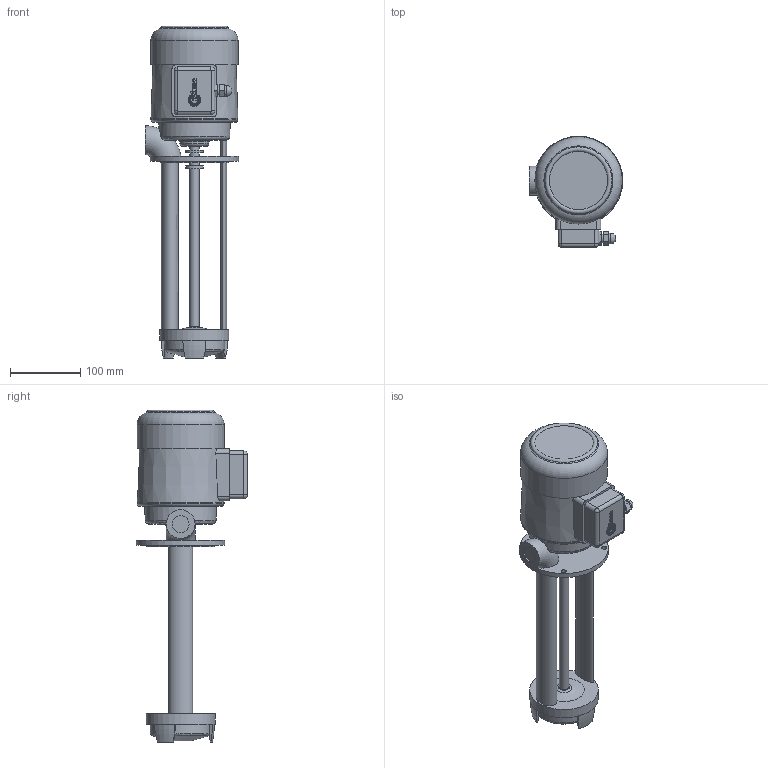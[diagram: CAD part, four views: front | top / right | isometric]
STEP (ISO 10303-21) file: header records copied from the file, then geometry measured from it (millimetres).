
FILE_DESCRIPTION(/* description */ ('Unknown'),/* implementation_level */ '2;1');
FILE_NAME(/* name */ 'CP27S',/* time_stamp */ '2025-05-30T09:28:21+03:00',/* author */ ('Unknown'),/* organization */ ('Unknown'),/* preprocessor_version */ 'ST-DEVELOPER v16.7',/* originating_system */ 'DEX',/* authorisation */ $);
FILE_SCHEMA (('AUTOMOTIVE_DESIGN {1 0 10303 214 3 1 1}'));
Length unit declared in the file: millimetre
Products named in the file (1): CP27S
Bounding box: 133.07 x 158.57 x 472.39 mm (x, y, z)
Volume: 2571837.4 mm3; surface area: 201524.3 mm2
Topology: 1 solids, 1 shells, 213 faces, 530 edges, 348 vertices
Faces by surface type: bspline 69, plane 68, cylinder 48, torus 23, cone 5
Full cylindrical faces by diameter (mm): 7 x4, 12 x1, 13.186 x4, 15 x1, 24 x1, 25.386 x2, 41.386 x1, 96.147 x1, 98 x1, 101.386 x1, 124 x1, 126.147 x1
Entity records: 8667 total; most frequent: CARTESIAN_POINT 4189, ORIENTED_EDGE 956, DIRECTION 723, EDGE_CURVE 478, VERTEX_POINT 336, EDGE_LOOP 298, FACE_BOUND 298, AXIS2_PLACEMENT_3D 272
